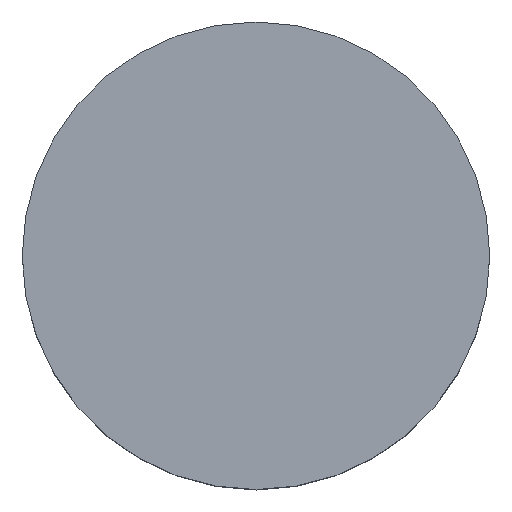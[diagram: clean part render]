
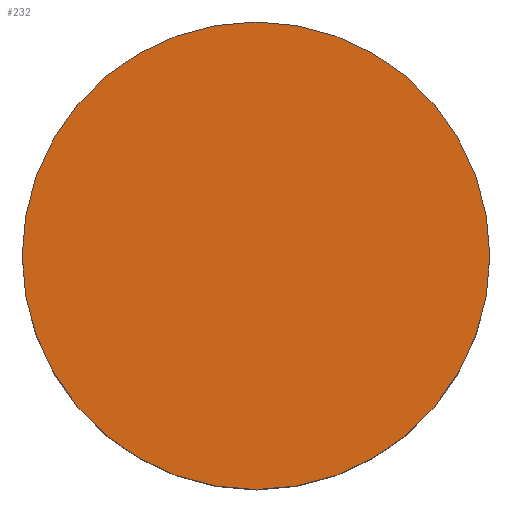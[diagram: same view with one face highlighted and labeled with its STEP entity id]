
A CAD part, top view. The second image highlights one B-rep face of the part: STEP entity #232.
In plain terms, the highlighted planar face has unit normal (0, 0, 1).
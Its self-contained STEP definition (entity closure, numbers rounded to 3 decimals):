
#36=PLANE('',#279);
#55=FACE_OUTER_BOUND('',#80,.T.);
#80=EDGE_LOOP('',(#196));
#115=CIRCLE('',#278,20.);
#134=VERTEX_POINT('',#424);
#158=EDGE_CURVE('',#134,#134,#115,.T.);
#196=ORIENTED_EDGE('',*,*,#158,.T.);
#232=ADVANCED_FACE('',(#55),#36,.T.);
#278=AXIS2_PLACEMENT_3D('',#425,#359,#360);
#279=AXIS2_PLACEMENT_3D('',#426,#361,#362);
#359=DIRECTION('center_axis',(0.,0.,1.));
#360=DIRECTION('ref_axis',(-1.,0.,0.));
#361=DIRECTION('center_axis',(0.,0.,1.));
#362=DIRECTION('ref_axis',(1.,0.,0.));
#424=CARTESIAN_POINT('',(20.,0.,23.));
#425=CARTESIAN_POINT('Origin',(0.,0.,23.));
#426=CARTESIAN_POINT('Origin',(0.,0.,
23.));
